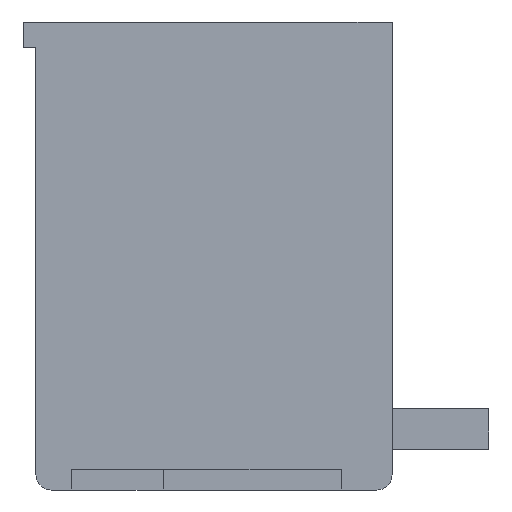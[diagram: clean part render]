
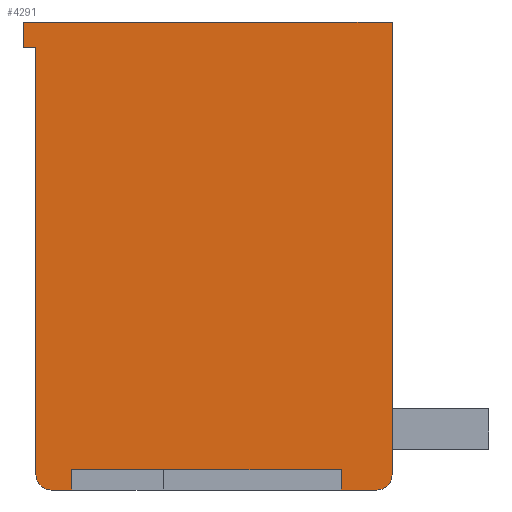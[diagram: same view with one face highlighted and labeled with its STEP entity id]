
A CAD part, left-side view. The second image highlights one B-rep face of the part: STEP entity #4291.
In plain terms, the highlighted planar face has unit normal (-1, 0, 0).
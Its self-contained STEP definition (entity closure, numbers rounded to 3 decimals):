
#134=DIRECTION('',(0.,-1.,0.));
#135=VECTOR('',#134,5.3);
#136=CARTESIAN_POINT('',(-6.215,2.925,-8.8));
#137=LINE('',#136,#135);
#138=DIRECTION('',(0.,0.,1.));
#139=VECTOR('',#138,0.4);
#140=CARTESIAN_POINT('',(-6.215,2.925,-9.2));
#141=LINE('',#140,#139);
#142=DIRECTION('',(0.,1.,0.));
#143=VECTOR('',#142,0.4);
#144=CARTESIAN_POINT('',(-6.215,2.925,-9.2));
#145=LINE('',#144,#143);
#146=CARTESIAN_POINT('',(-6.215,3.325,-8.9));
#147=DIRECTION('',(1.,0.,0.));
#148=DIRECTION('',(0.,0.,-1.));
#149=AXIS2_PLACEMENT_3D('',#146,#147,#148);
#151=DIRECTION('',(0.,0.,1.));
#152=VECTOR('',#151,8.4);
#153=CARTESIAN_POINT('',(-6.215,3.625,-8.9));
#154=LINE('',#153,#152);
#155=DIRECTION('',(0.,1.,0.));
#156=VECTOR('',#155,0.25);
#157=CARTESIAN_POINT('',(-6.215,3.625,-0.5));
#158=LINE('',#157,#156);
#159=DIRECTION('',(0.,0.,1.));
#160=VECTOR('',#159,0.5);
#161=CARTESIAN_POINT('',(-6.215,3.875,-0.5));
#162=LINE('',#161,#160);
#163=DIRECTION('',(0.,-1.,0.));
#164=VECTOR('',#163,7.25);
#165=CARTESIAN_POINT('',(-6.215,3.875,0.));
#166=LINE('',#165,#164);
#167=DIRECTION('',(0.,0.,-1.));
#168=VECTOR('',#167,8.9);
#169=CARTESIAN_POINT('',(-6.215,-3.375,0.));
#170=LINE('',#169,#168);
#171=CARTESIAN_POINT('',(-6.215,-3.075,-8.9));
#172=DIRECTION('',(1.,0.,0.));
#173=DIRECTION('',(0.,-1.,0.));
#174=AXIS2_PLACEMENT_3D('',#171,#172,#173);
#176=DIRECTION('',(0.,1.,0.));
#177=VECTOR('',#176,0.7);
#178=CARTESIAN_POINT('',(-6.215,-3.075,-9.2));
#179=LINE('',#178,#177);
#180=DIRECTION('',(0.,0.,1.));
#181=VECTOR('',#180,0.4);
#182=CARTESIAN_POINT('',(-6.215,-2.375,-9.2));
#183=LINE('',#182,#181);
#3579=CARTESIAN_POINT('',(-6.215,3.875,-0.5));
#3580=CARTESIAN_POINT('',(-6.215,3.875,0.));
#3581=VERTEX_POINT('',#3579);
#3582=VERTEX_POINT('',#3580);
#3583=CARTESIAN_POINT('',(-6.215,-3.375,0.));
#3584=VERTEX_POINT('',#3583);
#3585=CARTESIAN_POINT('',(-6.215,-3.375,-8.9));
#3586=VERTEX_POINT('',#3585);
#3587=CARTESIAN_POINT('',(-6.215,-3.075,-9.2));
#3588=VERTEX_POINT('',#3587);
#3589=CARTESIAN_POINT('',(-6.215,3.325,-9.2));
#3590=CARTESIAN_POINT('',(-6.215,3.625,-8.9));
#3591=VERTEX_POINT('',#3589);
#3592=VERTEX_POINT('',#3590);
#3593=CARTESIAN_POINT('',(-6.215,3.625,-0.5));
#3594=VERTEX_POINT('',#3593);
#3649=CARTESIAN_POINT('',(-6.215,2.925,-8.8));
#3650=CARTESIAN_POINT('',(-6.215,-2.375,-8.8));
#3651=VERTEX_POINT('',#3649);
#3652=VERTEX_POINT('',#3650);
#3653=CARTESIAN_POINT('',(-6.215,2.925,-9.2));
#3654=VERTEX_POINT('',#3653);
#3691=CARTESIAN_POINT('',(-6.215,-2.375,-9.2));
#3692=VERTEX_POINT('',#3691);
#4260=CARTESIAN_POINT('',(-6.215,0.,0.));
#4261=DIRECTION('',(1.,0.,0.));
#4262=DIRECTION('',(0.,0.,-1.));
#4263=AXIS2_PLACEMENT_3D('',#4260,#4261,#4262);
#4264=PLANE('',#4263);
#4266=ORIENTED_EDGE('',*,*,#4265,.F.);
#4268=ORIENTED_EDGE('',*,*,#4267,.F.);
#4270=ORIENTED_EDGE('',*,*,#4269,.T.);
#4272=ORIENTED_EDGE('',*,*,#4271,.T.);
#4274=ORIENTED_EDGE('',*,*,#4273,.T.);
#4276=ORIENTED_EDGE('',*,*,#4275,.T.);
#4278=ORIENTED_EDGE('',*,*,#4277,.T.);
#4280=ORIENTED_EDGE('',*,*,#4279,.T.);
#4282=ORIENTED_EDGE('',*,*,#4281,.T.);
#4284=ORIENTED_EDGE('',*,*,#4283,.T.);
#4286=ORIENTED_EDGE('',*,*,#4285,.T.);
#4288=ORIENTED_EDGE('',*,*,#4287,.T.);
#4289=EDGE_LOOP('',(#4266,#4268,#4270,#4272,#4274,#4276,#4278,#4280,#4282,#4284,
#4286,#4288));
#4290=FACE_OUTER_BOUND('',#4289,.F.);
#150=CIRCLE('',#149,0.3);
#175=CIRCLE('',#174,0.3);
#4265=EDGE_CURVE('',#3651,#3652,#137,.T.);
#4267=EDGE_CURVE('',#3654,#3651,#141,.T.);
#4269=EDGE_CURVE('',#3654,#3591,#145,.T.);
#4271=EDGE_CURVE('',#3591,#3592,#150,.T.);
#4273=EDGE_CURVE('',#3592,#3594,#154,.T.);
#4275=EDGE_CURVE('',#3594,#3581,#158,.T.);
#4277=EDGE_CURVE('',#3581,#3582,#162,.T.);
#4279=EDGE_CURVE('',#3582,#3584,#166,.T.);
#4281=EDGE_CURVE('',#3584,#3586,#170,.T.);
#4283=EDGE_CURVE('',#3586,#3588,#175,.T.);
#4285=EDGE_CURVE('',#3588,#3692,#179,.T.);
#4287=EDGE_CURVE('',#3692,#3652,#183,.T.);
#4291=ADVANCED_FACE('',(#4290),#4264,.F.);
